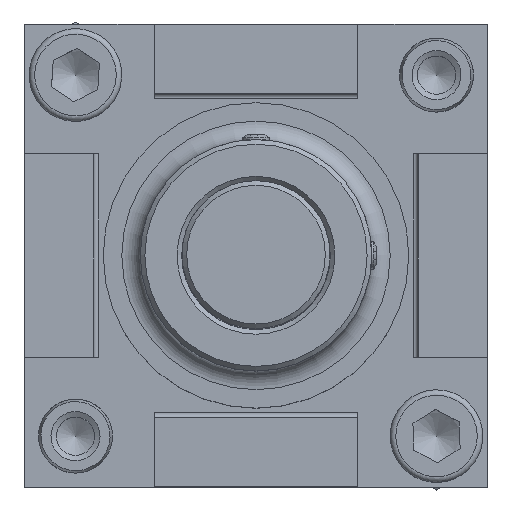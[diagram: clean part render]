
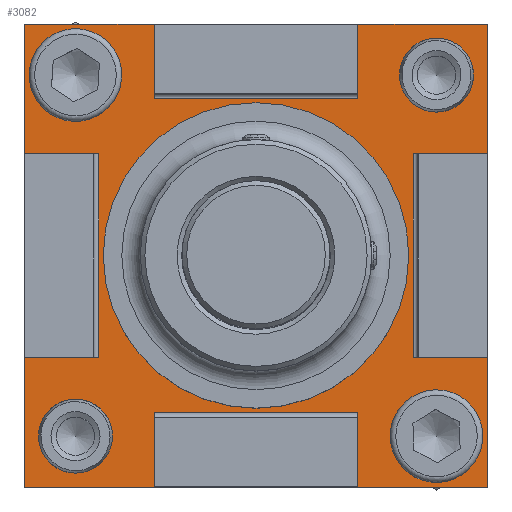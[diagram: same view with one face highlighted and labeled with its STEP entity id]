
A CAD part, top view. The second image highlights one B-rep face of the part: STEP entity #3082.
In plain terms, the highlighted planar face has unit normal (0, 0, 1).
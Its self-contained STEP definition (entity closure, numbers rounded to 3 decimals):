
#252=FACE_BOUND('',#611,.T.);
#253=FACE_BOUND('',#612,.T.);
#254=FACE_BOUND('',#613,.T.);
#255=FACE_BOUND('',#614,.T.);
#256=FACE_BOUND('',#615,.T.);
#303=PLANE('',#3594);
#407=FACE_OUTER_BOUND('',#610,.T.);
#610=EDGE_LOOP('',(#2340,#2341,#2342,#2343,#2344,#2345,#2346,#2347,#2348,
#2349,#2350,#2351,#2352,#2353,#2354,#2355,#2356,#2357,#2358,#2359));
#611=EDGE_LOOP('',(#2360,#2361));
#612=EDGE_LOOP('',(#2362,#2363));
#613=EDGE_LOOP('',(#2364,#2365));
#614=EDGE_LOOP('',(#2366,#2367));
#615=EDGE_LOOP('',(#2368,#2369));
#816=LINE('',#5157,#1007);
#818=LINE('',#5163,#1009);
#819=LINE('',#5165,#1010);
#820=LINE('',#5167,#1011);
#821=LINE('',#5169,#1012);
#822=LINE('',#5171,#1013);
#823=LINE('',#5173,#1014);
#824=LINE('',#5175,#1015);
#825=LINE('',#5177,#1016);
#826=LINE('',#5179,#1017);
#827=LINE('',#5181,#1018);
#828=LINE('',#5183,#1019);
#829=LINE('',#5185,#1020);
#830=LINE('',#5187,#1021);
#831=LINE('',#5189,#1022);
#832=LINE('',#5191,#1023);
#833=LINE('',#5193,#1024);
#834=LINE('',#5195,#1025);
#835=LINE('',#5197,#1026);
#836=LINE('',#5198,#1027);
#1007=VECTOR('',#4171,10.);
#1009=VECTOR('',#4177,10.);
#1010=VECTOR('',#4178,10.);
#1011=VECTOR('',#4179,10.);
#1012=VECTOR('',#4180,10.);
#1013=VECTOR('',#4181,10.);
#1014=VECTOR('',#4182,10.);
#1015=VECTOR('',#4183,10.);
#1016=VECTOR('',#4184,10.);
#1017=VECTOR('',#4185,10.);
#1018=VECTOR('',#4186,10.);
#1019=VECTOR('',#4187,10.);
#1020=VECTOR('',#4188,10.);
#1021=VECTOR('',#4189,10.);
#1022=VECTOR('',#4190,10.);
#1023=VECTOR('',#4191,10.);
#1024=VECTOR('',#4192,10.);
#1025=VECTOR('',#4193,10.);
#1026=VECTOR('',#4194,10.);
#1027=VECTOR('',#4195,10.);
#1223=CIRCLE('',#3595,12.25);
#1224=CIRCLE('',#3596,12.25);
#1225=CIRCLE('',#3597,3.25);
#1226=CIRCLE('',#3598,3.25);
#1227=CIRCLE('',#3599,3.25);
#1228=CIRCLE('',#3600,3.25);
#1229=CIRCLE('',#3601,4.);
#1230=CIRCLE('',#3602,4.);
#1231=CIRCLE('',#3603,4.);
#1232=CIRCLE('',#3604,4.);
#1443=VERTEX_POINT('',#5154);
#1444=VERTEX_POINT('',#5156);
#1446=VERTEX_POINT('',#5162);
#1447=VERTEX_POINT('',#5164);
#1448=VERTEX_POINT('',#5166);
#1449=VERTEX_POINT('',#5168);
#1450=VERTEX_POINT('',#5170);
#1451=VERTEX_POINT('',#5172);
#1452=VERTEX_POINT('',#5174);
#1453=VERTEX_POINT('',#5176);
#1454=VERTEX_POINT('',#5178);
#1455=VERTEX_POINT('',#5180);
#1456=VERTEX_POINT('',#5182);
#1457=VERTEX_POINT('',#5184);
#1458=VERTEX_POINT('',#5186);
#1459=VERTEX_POINT('',#5188);
#1460=VERTEX_POINT('',#5190);
#1461=VERTEX_POINT('',#5192);
#1462=VERTEX_POINT('',#5194);
#1463=VERTEX_POINT('',#5196);
#1464=VERTEX_POINT('',#5199);
#1465=VERTEX_POINT('',#5200);
#1466=VERTEX_POINT('',#5203);
#1467=VERTEX_POINT('',#5204);
#1468=VERTEX_POINT('',#5207);
#1469=VERTEX_POINT('',#5208);
#1470=VERTEX_POINT('',#5211);
#1471=VERTEX_POINT('',#5212);
#1472=VERTEX_POINT('',#5215);
#1473=VERTEX_POINT('',#5216);
#1781=EDGE_CURVE('',#1443,#1444,#816,.T.);
#1784=EDGE_CURVE('',#1446,#1444,#818,.T.);
#1785=EDGE_CURVE('',#1447,#1443,#819,.T.);
#1786=EDGE_CURVE('',#1448,#1447,#820,.T.);
#1787=EDGE_CURVE('',#1449,#1448,#821,.T.);
#1788=EDGE_CURVE('',#1449,#1450,#822,.T.);
#1789=EDGE_CURVE('',#1451,#1450,#823,.T.);
#1790=EDGE_CURVE('',#1452,#1451,#824,.T.);
#1791=EDGE_CURVE('',#1453,#1452,#825,.T.);
#1792=EDGE_CURVE('',#1454,#1453,#826,.T.);
#1793=EDGE_CURVE('',#1454,#1455,#827,.T.);
#1794=EDGE_CURVE('',#1456,#1455,#828,.T.);
#1795=EDGE_CURVE('',#1457,#1456,#829,.T.);
#1796=EDGE_CURVE('',#1458,#1457,#830,.T.);
#1797=EDGE_CURVE('',#1459,#1458,#831,.T.);
#1798=EDGE_CURVE('',#1459,#1460,#832,.T.);
#1799=EDGE_CURVE('',#1461,#1460,#833,.T.);
#1800=EDGE_CURVE('',#1462,#1461,#834,.T.);
#1801=EDGE_CURVE('',#1463,#1462,#835,.T.);
#1802=EDGE_CURVE('',#1446,#1463,#836,.T.);
#1803=EDGE_CURVE('',#1464,#1465,#1223,.T.);
#1804=EDGE_CURVE('',#1465,#1464,#1224,.T.);
#1805=EDGE_CURVE('',#1466,#1467,#1225,.T.);
#1806=EDGE_CURVE('',#1467,#1466,#1226,.T.);
#1807=EDGE_CURVE('',#1468,#1469,#1227,.T.);
#1808=EDGE_CURVE('',#1469,#1468,#1228,.T.);
#1809=EDGE_CURVE('',#1470,#1471,#1229,.T.);
#1810=EDGE_CURVE('',#1471,#1470,#1230,.T.);
#1811=EDGE_CURVE('',#1472,#1473,#1231,.T.);
#1812=EDGE_CURVE('',#1473,#1472,#1232,.T.);
#2340=ORIENTED_EDGE('',*,*,#1784,.T.);
#2341=ORIENTED_EDGE('',*,*,#1781,.F.);
#2342=ORIENTED_EDGE('',*,*,#1785,.F.);
#2343=ORIENTED_EDGE('',*,*,#1786,.F.);
#2344=ORIENTED_EDGE('',*,*,#1787,.F.);
#2345=ORIENTED_EDGE('',*,*,#1788,.T.);
#2346=ORIENTED_EDGE('',*,*,#1789,.F.);
#2347=ORIENTED_EDGE('',*,*,#1790,.F.);
#2348=ORIENTED_EDGE('',*,*,#1791,.F.);
#2349=ORIENTED_EDGE('',*,*,#1792,.F.);
#2350=ORIENTED_EDGE('',*,*,#1793,.T.);
#2351=ORIENTED_EDGE('',*,*,#1794,.F.);
#2352=ORIENTED_EDGE('',*,*,#1795,.F.);
#2353=ORIENTED_EDGE('',*,*,#1796,.F.);
#2354=ORIENTED_EDGE('',*,*,#1797,.F.);
#2355=ORIENTED_EDGE('',*,*,#1798,.T.);
#2356=ORIENTED_EDGE('',*,*,#1799,.F.);
#2357=ORIENTED_EDGE('',*,*,#1800,.F.);
#2358=ORIENTED_EDGE('',*,*,#1801,.F.);
#2359=ORIENTED_EDGE('',*,*,#1802,.F.);
#2360=ORIENTED_EDGE('',*,*,#1803,.F.);
#2361=ORIENTED_EDGE('',*,*,#1804,.F.);
#2362=ORIENTED_EDGE('',*,*,#1805,.F.);
#2363=ORIENTED_EDGE('',*,*,#1806,.F.);
#2364=ORIENTED_EDGE('',*,*,#1807,.F.);
#2365=ORIENTED_EDGE('',*,*,#1808,.F.);
#2366=ORIENTED_EDGE('',*,*,#1809,.F.);
#2367=ORIENTED_EDGE('',*,*,#1810,.F.);
#2368=ORIENTED_EDGE('',*,*,#1811,.F.);
#2369=ORIENTED_EDGE('',*,*,#1812,.F.);
#3082=ADVANCED_FACE('',(#407,#252,#253,#254,#255,#256),#303,.T.);
#3594=AXIS2_PLACEMENT_3D('',#5161,#4175,#4176);
#3595=AXIS2_PLACEMENT_3D('',#5201,#4196,#4197);
#3596=AXIS2_PLACEMENT_3D('',#5202,#4198,#4199);
#3597=AXIS2_PLACEMENT_3D('',#5205,#4200,#4201);
#3598=AXIS2_PLACEMENT_3D('',#5206,#4202,#4203);
#3599=AXIS2_PLACEMENT_3D('',#5209,#4204,#4205);
#3600=AXIS2_PLACEMENT_3D('',#5210,#4206,#4207);
#3601=AXIS2_PLACEMENT_3D('',#5213,#4208,#4209);
#3602=AXIS2_PLACEMENT_3D('',#5214,#4210,#4211);
#3603=AXIS2_PLACEMENT_3D('',#5217,#4212,#4213);
#3604=AXIS2_PLACEMENT_3D('',#5218,#4214,#4215);
#4171=DIRECTION('',(1.,0.,0.));
#4175=DIRECTION('center_axis',(0.,0.,
1.));
#4176=DIRECTION('ref_axis',(1.,0.,0.));
#4177=DIRECTION('',(0.,-1.,0.));
#4178=DIRECTION('',(0.,-1.,0.));
#4179=DIRECTION('',(1.,0.,0.));
#4180=DIRECTION('',(0.,1.,0.));
#4181=DIRECTION('',(1.,0.,0.));
#4182=DIRECTION('',(0.,1.,0.));
#4183=DIRECTION('',(1.,0.,0.));
#4184=DIRECTION('',(0.,1.,0.));
#4185=DIRECTION('',(-1.,0.,0.));
#4186=DIRECTION('',(0.,1.,0.));
#4187=DIRECTION('',(-1.,0.,0.));
#4188=DIRECTION('',(0.,1.,0.));
#4189=DIRECTION('',(-1.,0.,0.));
#4190=DIRECTION('',(0.,-1.,0.));
#4191=DIRECTION('',(-1.,0.,0.));
#4192=DIRECTION('',(0.,-1.,0.));
#4193=DIRECTION('',(-1.,0.,0.));
#4194=DIRECTION('',(0.,-1.,0.));
#4195=DIRECTION('',(1.,0.,0.));
#4196=DIRECTION('center_axis',(0.,0.,
1.));
#4197=DIRECTION('ref_axis',(1.,0.,0.));
#4198=DIRECTION('center_axis',(0.,0.,
1.));
#4199=DIRECTION('ref_axis',(1.,0.,0.));
#4200=DIRECTION('center_axis',(0.,0.,
1.));
#4201=DIRECTION('ref_axis',(1.,0.,0.));
#4202=DIRECTION('center_axis',(0.,0.,
1.));
#4203=DIRECTION('ref_axis',(1.,0.,0.));
#4204=DIRECTION('center_axis',(0.,0.,
1.));
#4205=DIRECTION('ref_axis',(1.,0.,0.));
#4206=DIRECTION('center_axis',(0.,0.,
1.));
#4207=DIRECTION('ref_axis',(1.,0.,0.));
#4208=DIRECTION('center_axis',(0.,0.,
1.));
#4209=DIRECTION('ref_axis',(1.,0.,0.));
#4210=DIRECTION('center_axis',(0.,0.,
1.));
#4211=DIRECTION('ref_axis',(1.,0.,0.));
#4212=DIRECTION('center_axis',(0.,0.,
1.));
#4213=DIRECTION('ref_axis',(1.,0.,0.));
#4214=DIRECTION('center_axis',(0.,0.,
1.));
#4215=DIRECTION('ref_axis',(1.,0.,0.));
#5154=CARTESIAN_POINT('',(-11.,17.,6.));
#5156=CARTESIAN_POINT('',(11.,17.,6.));
#5157=CARTESIAN_POINT('',(-5.5,17.,6.));
#5161=CARTESIAN_POINT('Origin',(0.,0.,
6.));
#5162=CARTESIAN_POINT('',(11.,25.,6.));
#5163=CARTESIAN_POINT('',(11.,8.75,6.));
#5164=CARTESIAN_POINT('',(-11.,25.,6.));
#5165=CARTESIAN_POINT('',(-11.,12.5,6.));
#5166=CARTESIAN_POINT('',(-25.,25.,6.));
#5167=CARTESIAN_POINT('',(-12.5,25.,6.));
#5168=CARTESIAN_POINT('',(-25.,11.,6.));
#5169=CARTESIAN_POINT('',(-25.,-12.5,6.));
#5170=CARTESIAN_POINT('',(-17.,11.,6.));
#5171=CARTESIAN_POINT('',(-8.75,11.,6.));
#5172=CARTESIAN_POINT('',(-17.,-11.,6.));
#5173=CARTESIAN_POINT('',(-17.,-5.5,6.));
#5174=CARTESIAN_POINT('',(-25.,-11.,6.));
#5175=CARTESIAN_POINT('',(-12.5,-11.,6.));
#5176=CARTESIAN_POINT('',(-25.,-25.,6.));
#5177=CARTESIAN_POINT('',(-25.,-12.5,6.));
#5178=CARTESIAN_POINT('',(-11.,-25.,6.));
#5179=CARTESIAN_POINT('',(12.5,-25.,6.));
#5180=CARTESIAN_POINT('',(-11.,-17.,6.));
#5181=CARTESIAN_POINT('',(-11.,-8.75,6.));
#5182=CARTESIAN_POINT('',(11.,-17.,6.));
#5183=CARTESIAN_POINT('',(5.5,-17.,6.));
#5184=CARTESIAN_POINT('',(11.,-25.,6.));
#5185=CARTESIAN_POINT('',(11.,-12.5,6.));
#5186=CARTESIAN_POINT('',(25.,-25.,6.));
#5187=CARTESIAN_POINT('',(12.5,-25.,6.));
#5188=CARTESIAN_POINT('',(25.,-11.,6.));
#5189=CARTESIAN_POINT('',(25.,12.5,6.));
#5190=CARTESIAN_POINT('',(17.,-11.,6.));
#5191=CARTESIAN_POINT('',(8.75,-11.,6.));
#5192=CARTESIAN_POINT('',(17.,11.,6.));
#5193=CARTESIAN_POINT('',(17.,5.5,6.));
#5194=CARTESIAN_POINT('',(25.,11.,6.));
#5195=CARTESIAN_POINT('',(12.5,11.,6.));
#5196=CARTESIAN_POINT('',(25.,25.,6.));
#5197=CARTESIAN_POINT('',(25.,12.5,6.));
#5198=CARTESIAN_POINT('',(-12.5,25.,6.));
#5199=CARTESIAN_POINT('',(12.25,0.,6.));
#5200=CARTESIAN_POINT('',(-12.25,0.,6.));
#5201=CARTESIAN_POINT('Origin',(0.,0.,6.));
#5202=CARTESIAN_POINT('Origin',(0.,0.,6.));
#5203=CARTESIAN_POINT('',(-16.25,-19.5,6.));
#5204=CARTESIAN_POINT('',(-22.75,-19.5,6.));
#5205=CARTESIAN_POINT('Origin',(-19.5,-19.5,6.));
#5206=CARTESIAN_POINT('Origin',(-19.5,-19.5,6.));
#5207=CARTESIAN_POINT('',(22.75,19.5,6.));
#5208=CARTESIAN_POINT('',(16.25,19.5,6.));
#5209=CARTESIAN_POINT('Origin',(19.5,19.5,6.));
#5210=CARTESIAN_POINT('Origin',(19.5,19.5,6.));
#5211=CARTESIAN_POINT('',(-15.5,19.5,6.));
#5212=CARTESIAN_POINT('',(-23.5,19.5,6.));
#5213=CARTESIAN_POINT('Origin',(-19.5,19.5,6.));
#5214=CARTESIAN_POINT('Origin',(-19.5,19.5,6.));
#5215=CARTESIAN_POINT('',(23.5,-19.5,6.));
#5216=CARTESIAN_POINT('',(15.5,-19.5,6.));
#5217=CARTESIAN_POINT('Origin',(19.5,-19.5,6.));
#5218=CARTESIAN_POINT('Origin',(19.5,-19.5,6.));
